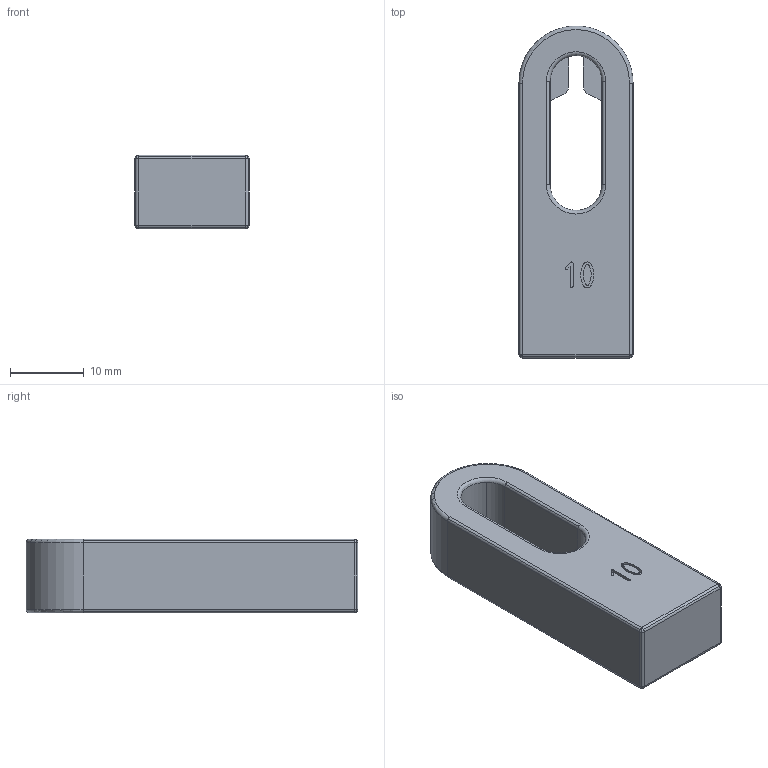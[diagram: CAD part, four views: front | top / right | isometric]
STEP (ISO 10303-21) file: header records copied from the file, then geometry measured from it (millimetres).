
FILE_DESCRIPTION(('STEP AP214'),'1');
FILE_NAME('BF-20240124-cad-shim1_10mm_light-02cbr.stp','2024-01-24T17:43:55',(' '),(' '),'Spatial InterOp 3D',' ',' ');
FILE_SCHEMA(('AUTOMOTIVE_DESIGN { 1 0 10303 214 1 1 1 1 }'));
Length unit declared in the file: metre
Products named in the file (1): Volumenkörper
Bounding box: 15.5 x 44.99 x 10 mm (x, y, z)
Volume: 4272.2 mm3; surface area: 3504.9 mm2
Topology: 1 solids, 7 shells, 262 faces, 697 edges, 444 vertices
Faces by surface type: cylinder 120, extrusion 50, plane 42, torus 42, sphere 8
Entity records: 8452 total; most frequent: CARTESIAN_POINT 1887, DIRECTION 1385, ORIENTED_EDGE 1326, EDGE_CURVE 689, AXIS2_PLACEMENT_3D 530, VERTEX_POINT 442, VECTOR 325, CIRCLE 314
